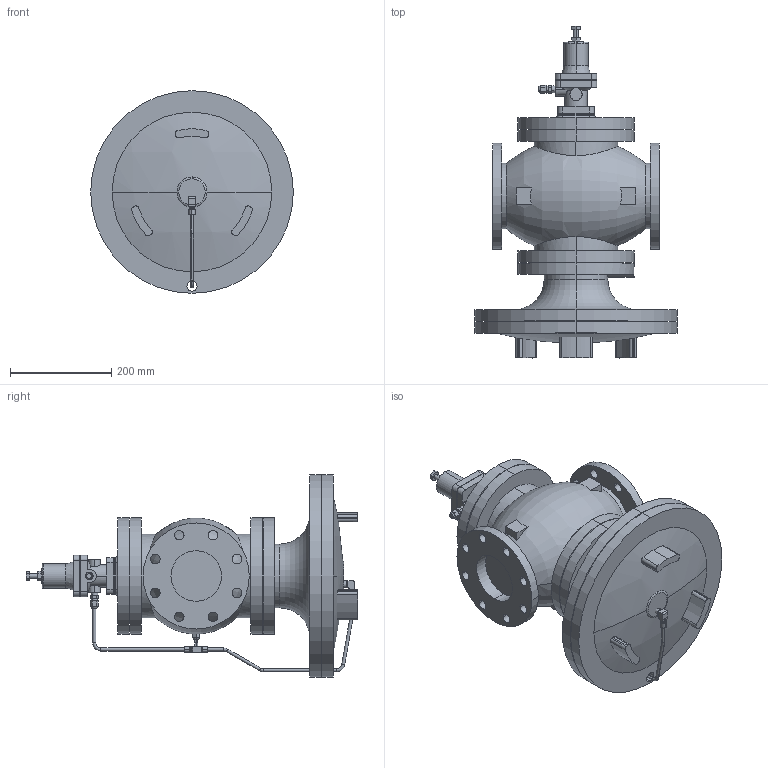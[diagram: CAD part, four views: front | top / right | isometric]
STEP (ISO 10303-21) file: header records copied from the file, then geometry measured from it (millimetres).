
FILE_DESCRIPTION (( 'STEP AP203' ), '1' );
FILE_NAME ('GPR-2000 JIS10K 100A.STEP', '2025-12-05T02:57:49', ( '' ), ( '' ), 'SwSTEP 2.0', 'SolidWorks 2024', '' );
FILE_SCHEMA (( 'CONFIG_CONTROL_DESIGN' ));
Length unit declared in the file: millimetre
Products named in the file (8): GPR-2000 JIS10K 100A; Pipe C 100A; Joint; Tee; Pipe B 100A; GPR-2000 Body Assy EN PN25 100A; Elbow; GP-2000 Pipe A 100A
Assembly tree (9 placements, depth 2):
  GPR-2000 JIS10K 100A
    GPR-2000 Body Assy EN PN25 100A
    Tee
    Joint  x3
    Pipe B 100A
    GP-2000 Pipe A 100A
    Elbow
    Pipe C 100A
Bounding box: 401 x 657.1 x 401 mm (x, y, z)
Volume: 22274265.4 mm3; surface area: 1079900.2 mm2
Topology: 9 solids, 9 shells, 433 faces, 1066 edges, 705 vertices
Faces by surface type: cylinder 194, plane 190, cone 25, torus 22, sphere 2
Entity records: 13670 total; most frequent: CARTESIAN_POINT 3382, DIRECTION 2076, ORIENTED_EDGE 1864, EDGE_CURVE 932, AXIS2_PLACEMENT_3D 817, VERTEX_POINT 609, EDGE_LOOP 473, VECTOR 442
